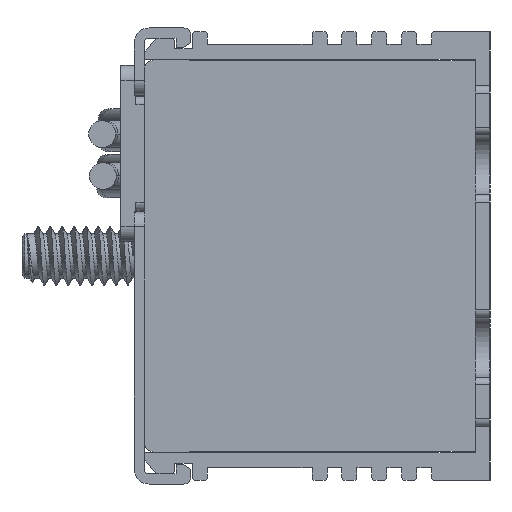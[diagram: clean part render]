
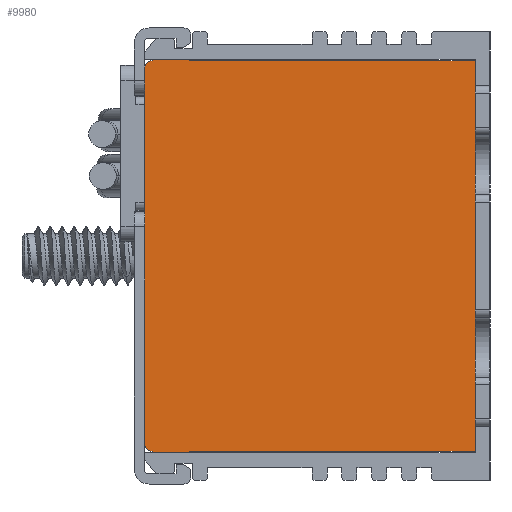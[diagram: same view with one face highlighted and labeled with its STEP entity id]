
A CAD part, left-side view. The second image highlights one B-rep face of the part: STEP entity #9980.
In plain terms, the highlighted planar face has unit normal (-1, 0, 0) as drawn and (0, 0, 1) by its records, which use the part's own axes.
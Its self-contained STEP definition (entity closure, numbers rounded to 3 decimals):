
#9162=CARTESIAN_POINT('',(-13.25,10.05,1.));
#9163=DIRECTION('',(0.,0.,1.));
#9164=DIRECTION('',(0.,1.,0.));
#9165=AXIS2_PLACEMENT_3D('',#9162,#9163,#9164);
#9170=DIRECTION('',(-1.,0.,0.));
#9171=VECTOR('',#9170,0.2);
#9172=CARTESIAN_POINT('',(-13.05,10.55,1.));
#9173=LINE('',#9172,#9171);
#9177=CARTESIAN_POINT('',(-12.55,10.55,1.));
#9178=DIRECTION('',(0.,0.,1.));
#9179=DIRECTION('',(0.,1.,0.));
#9180=AXIS2_PLACEMENT_3D('',#9177,#9178,#9179);
#9185=DIRECTION('',(-1.,0.,0.));
#9186=VECTOR('',#9185,10.75);
#9187=CARTESIAN_POINT('',(-1.8,11.05,1.));
#9188=LINE('',#9187,#9186);
#9192=DIRECTION('',(0.,1.,0.));
#9193=VECTOR('',#9192,0.5);
#9194=CARTESIAN_POINT('',(-1.8,11.05,1.));
#9195=LINE('',#9194,#9193);
#9199=CARTESIAN_POINT('',(-1.6,11.55,1.));
#9200=DIRECTION('',(0.,0.,1.));
#9201=DIRECTION('',(0.,1.,0.));
#9202=AXIS2_PLACEMENT_3D('',#9199,#9200,#9201);
#9207=CARTESIAN_POINT('',(1.6,11.55,1.));
#9208=DIRECTION('',(0.,0.,1.));
#9209=DIRECTION('',(1.,0.,0.));
#9210=AXIS2_PLACEMENT_3D('',#9207,#9208,#9209);
#9215=DIRECTION('',(-1.,0.,0.));
#9216=VECTOR('',#9215,10.75);
#9217=CARTESIAN_POINT('',(12.55,11.05,1.));
#9218=LINE('',#9217,#9216);
#9222=CARTESIAN_POINT('',(12.55,10.55,1.));
#9223=DIRECTION('',(0.,0.,1.));
#9224=DIRECTION('',(1.,0.,0.));
#9225=AXIS2_PLACEMENT_3D('',#9222,#9223,#9224);
#9230=DIRECTION('',(-1.,0.,0.));
#9231=VECTOR('',#9230,0.2);
#9232=CARTESIAN_POINT('',(13.25,10.55,1.));
#9233=LINE('',#9232,#9231);
#9237=CARTESIAN_POINT('',(13.25,10.05,1.));
#9238=DIRECTION('',(0.,0.,1.));
#9239=DIRECTION('',(1.,0.,0.));
#9240=AXIS2_PLACEMENT_3D('',#9237,#9238,#9239);
#9245=DIRECTION('',(0.,1.,0.));
#9246=VECTOR('',#9245,1.5);
#9247=CARTESIAN_POINT('',(13.75,8.55,1.));
#9248=LINE('',#9247,#9246);
#9252=CARTESIAN_POINT('',(13.25,8.55,1.));
#9253=DIRECTION('',(0.,0.,1.));
#9254=DIRECTION('',(0.,-1.,0.));
#9255=AXIS2_PLACEMENT_3D('',#9252,#9253,#9254);
#9260=DIRECTION('',(1.,0.,0.));
#9261=VECTOR('',#9260,0.2);
#9262=CARTESIAN_POINT('',(13.05,8.05,1.));
#9263=LINE('',#9262,#9261);
#9267=DIRECTION('',(0.,1.,0.));
#9268=VECTOR('',#9267,19.1);
#9269=CARTESIAN_POINT('',(13.05,-11.05,1.));
#9270=LINE('',#9269,#9268);
#9274=DIRECTION('',(1.,0.,0.));
#9275=VECTOR('',#9274,3.25);
#9276=CARTESIAN_POINT('',(9.8,-11.05,1.));
#9277=LINE('',#9276,#9275);
#9281=DIRECTION('',(0.,-1.,0.));
#9282=VECTOR('',#9281,1.);
#9283=CARTESIAN_POINT('',(9.8,-11.05,1.));
#9284=LINE('',#9283,#9282);
#9288=DIRECTION('',(1.,0.,0.));
#9289=VECTOR('',#9288,10.4);
#9290=CARTESIAN_POINT('',(-5.2,-11.05,1.));
#9291=LINE('',#9290,#9289);
#9295=DIRECTION('',(0.,-1.,0.));
#9296=VECTOR('',#9295,1.);
#9297=CARTESIAN_POINT('',(-5.2,-11.05,1.));
#9298=LINE('',#9297,#9296);
#9302=DIRECTION('',(1.,0.,0.));
#9303=VECTOR('',#9302,3.25);
#9304=CARTESIAN_POINT('',(-13.05,-11.05,1.));
#9305=LINE('',#9304,#9303);
#9309=DIRECTION('',(0.,-1.,0.));
#9310=VECTOR('',#9309,19.1);
#9311=CARTESIAN_POINT('',(-13.05,8.05,1.));
#9312=LINE('',#9311,#9310);
#9316=DIRECTION('',(1.,0.,0.));
#9317=VECTOR('',#9316,0.2);
#9318=CARTESIAN_POINT('',(-13.25,8.05,1.));
#9319=LINE('',#9318,#9317);
#9323=CARTESIAN_POINT('',(-13.25,8.55,1.));
#9324=DIRECTION('',(0.,0.,1.));
#9325=DIRECTION('',(-1.,0.,0.));
#9326=AXIS2_PLACEMENT_3D('',#9323,#9324,#9325);
#9331=DIRECTION('',(0.,-1.,0.));
#9332=VECTOR('',#9331,1.5);
#9333=CARTESIAN_POINT('',(-13.75,10.05,1.));
#9334=LINE('',#9333,#9332);
#9338=DIRECTION('',(1.,0.,0.));
#9339=VECTOR('',#9338,3.2);
#9340=CARTESIAN_POINT('',(-1.6,11.75,1.));
#9341=LINE('',#9340,#9339);
#9366=DIRECTION('',(0.,1.,0.));
#9367=VECTOR('',#9366,0.5);
#9368=CARTESIAN_POINT('',(1.8,11.05,1.));
#9369=LINE('',#9368,#9367);
#9464=DIRECTION('',(0.,-1.,0.));
#9465=VECTOR('',#9464,1.);
#9466=CARTESIAN_POINT('',(5.2,-11.05,1.));
#9467=LINE('',#9466,#9465);
#9471=DIRECTION('',(-1.,0.,0.));
#9472=VECTOR('',#9471,4.6);
#9473=CARTESIAN_POINT('',(9.8,-12.05,1.));
#9474=LINE('',#9473,#9472);
#9499=DIRECTION('',(-1.,0.,0.));
#9500=VECTOR('',#9499,4.6);
#9501=CARTESIAN_POINT('',(-5.2,-12.05,1.));
#9502=LINE('',#9501,#9500);
#9541=DIRECTION('',(0.,-1.,0.));
#9542=VECTOR('',#9541,1.);
#9543=CARTESIAN_POINT('',(-9.8,-11.05,1.));
#9544=LINE('',#9543,#9542);
#9577=CARTESIAN_POINT('',(-13.05,-11.05,1.));
#9579=VERTEX_POINT('',#9577);
#9581=CARTESIAN_POINT('',(13.05,-11.05,1.));
#9583=VERTEX_POINT('',#9581);
#9584=CARTESIAN_POINT('',(9.8,-12.05,1.));
#9585=CARTESIAN_POINT('',(5.2,-12.05,1.));
#9586=VERTEX_POINT('',#9584);
#9587=VERTEX_POINT('',#9585);
#9592=CARTESIAN_POINT('',(-5.2,-12.05,1.));
#9593=CARTESIAN_POINT('',(-9.8,-12.05,1.));
#9594=VERTEX_POINT('',#9592);
#9595=VERTEX_POINT('',#9593);
#9601=CARTESIAN_POINT('',(5.2,-11.05,1.));
#9603=VERTEX_POINT('',#9601);
#9605=CARTESIAN_POINT('',(9.8,-11.05,1.));
#9607=VERTEX_POINT('',#9605);
#9609=CARTESIAN_POINT('',(-9.8,-11.05,1.));
#9611=VERTEX_POINT('',#9609);
#9613=CARTESIAN_POINT('',(-5.2,-11.05,1.));
#9615=VERTEX_POINT('',#9613);
#9616=CARTESIAN_POINT('',(-12.55,11.05,1.));
#9618=VERTEX_POINT('',#9616);
#9620=CARTESIAN_POINT('',(12.55,11.05,1.));
#9622=VERTEX_POINT('',#9620);
#9625=CARTESIAN_POINT('',(-1.8,11.05,1.));
#9627=VERTEX_POINT('',#9625);
#9629=CARTESIAN_POINT('',(1.8,11.05,1.));
#9631=VERTEX_POINT('',#9629);
#9632=CARTESIAN_POINT('',(-1.6,11.75,1.));
#9633=CARTESIAN_POINT('',(1.6,11.75,1.));
#9634=VERTEX_POINT('',#9632);
#9635=VERTEX_POINT('',#9633);
#9642=CARTESIAN_POINT('',(-1.8,11.55,1.));
#9643=VERTEX_POINT('',#9642);
#9644=CARTESIAN_POINT('',(1.8,11.55,1.));
#9645=VERTEX_POINT('',#9644);
#9649=CARTESIAN_POINT('',(-13.05,10.55,1.));
#9651=VERTEX_POINT('',#9649);
#9653=CARTESIAN_POINT('',(-13.05,8.05,1.));
#9655=VERTEX_POINT('',#9653);
#9660=CARTESIAN_POINT('',(-13.25,10.55,1.));
#9661=VERTEX_POINT('',#9660);
#9662=CARTESIAN_POINT('',(-13.75,10.05,1.));
#9663=VERTEX_POINT('',#9662);
#9668=CARTESIAN_POINT('',(-13.75,8.55,1.));
#9669=VERTEX_POINT('',#9668);
#9670=CARTESIAN_POINT('',(-13.25,8.05,1.));
#9671=VERTEX_POINT('',#9670);
#9673=CARTESIAN_POINT('',(13.05,8.05,1.));
#9675=VERTEX_POINT('',#9673);
#9677=CARTESIAN_POINT('',(13.05,10.55,1.));
#9679=VERTEX_POINT('',#9677);
#9684=CARTESIAN_POINT('',(13.75,10.05,1.));
#9685=VERTEX_POINT('',#9684);
#9686=CARTESIAN_POINT('',(13.25,10.55,1.));
#9687=VERTEX_POINT('',#9686);
#9692=CARTESIAN_POINT('',(13.25,8.05,1.));
#9693=VERTEX_POINT('',#9692);
#9694=CARTESIAN_POINT('',(13.75,8.55,1.));
#9695=VERTEX_POINT('',#9694);
#9920=CARTESIAN_POINT('',(0.,0.,1.));
#9921=DIRECTION('',(0.,0.,1.));
#9922=DIRECTION('',(1.,0.,0.));
#9923=AXIS2_PLACEMENT_3D('',#9920,#9921,#9922);
#9924=PLANE('',#9923);
#9925=ORIENTED_EDGE('',*,*,#9779,.F.);
#9926=ORIENTED_EDGE('',*,*,#9802,.F.);
#9927=ORIENTED_EDGE('',*,*,#9823,.F.);
#9928=ORIENTED_EDGE('',*,*,#9842,.F.);
#9929=ORIENTED_EDGE('',*,*,#9886,.T.);
#9930=ORIENTED_EDGE('',*,*,#9904,.F.);
#9932=ORIENTED_EDGE('',*,*,#9931,.T.);
#9934=ORIENTED_EDGE('',*,*,#9933,.F.);
#9936=ORIENTED_EDGE('',*,*,#9935,.F.);
#9937=ORIENTED_EDGE('',*,*,#9866,.F.);
#9939=ORIENTED_EDGE('',*,*,#9938,.F.);
#9941=ORIENTED_EDGE('',*,*,#9940,.F.);
#9943=ORIENTED_EDGE('',*,*,#9942,.F.);
#9945=ORIENTED_EDGE('',*,*,#9944,.F.);
#9947=ORIENTED_EDGE('',*,*,#9946,.F.);
#9949=ORIENTED_EDGE('',*,*,#9948,.F.);
#9951=ORIENTED_EDGE('',*,*,#9950,.F.);
#9953=ORIENTED_EDGE('',*,*,#9952,.F.);
#9955=ORIENTED_EDGE('',*,*,#9954,.T.);
#9957=ORIENTED_EDGE('',*,*,#9956,.T.);
#9959=ORIENTED_EDGE('',*,*,#9958,.F.);
#9961=ORIENTED_EDGE('',*,*,#9960,.F.);
#9963=ORIENTED_EDGE('',*,*,#9962,.T.);
#9965=ORIENTED_EDGE('',*,*,#9964,.T.);
#9967=ORIENTED_EDGE('',*,*,#9966,.F.);
#9969=ORIENTED_EDGE('',*,*,#9968,.F.);
#9971=ORIENTED_EDGE('',*,*,#9970,.F.);
#9973=ORIENTED_EDGE('',*,*,#9972,.F.);
#9975=ORIENTED_EDGE('',*,*,#9974,.F.);
#9977=ORIENTED_EDGE('',*,*,#9976,.F.);
#9978=EDGE_LOOP('',(#9925,#9926,#9927,#9928,#9929,#9930,#9932,#9934,#9936,#9937,
#9939,#9941,#9943,#9945,#9947,#9949,#9951,#9953,#9955,#9957,#9959,#9961,#9963,
#9965,#9967,#9969,#9971,#9973,#9975,#9977));
#9979=FACE_OUTER_BOUND('',#9978,.F.);
#9980=ADVANCED_FACE('',(#9979),#9924,.T.);
#9166=CIRCLE('',#9165,0.5);
#9181=CIRCLE('',#9180,0.5);
#9203=CIRCLE('',#9202,0.2);
#9211=CIRCLE('',#9210,0.2);
#9226=CIRCLE('',#9225,0.5);
#9241=CIRCLE('',#9240,0.5);
#9256=CIRCLE('',#9255,0.5);
#9327=CIRCLE('',#9326,0.5);
#9779=EDGE_CURVE('',#9661,#9663,#9166,.T.);
#9802=EDGE_CURVE('',#9651,#9661,#9173,.T.);
#9823=EDGE_CURVE('',#9618,#9651,#9181,.T.);
#9842=EDGE_CURVE('',#9627,#9618,#9188,.T.);
#9866=EDGE_CURVE('',#9622,#9631,#9218,.T.);
#9886=EDGE_CURVE('',#9627,#9643,#9195,.T.);
#9904=EDGE_CURVE('',#9634,#9643,#9203,.T.);
#9931=EDGE_CURVE('',#9634,#9635,#9341,.T.);
#9933=EDGE_CURVE('',#9645,#9635,#9211,.T.);
#9935=EDGE_CURVE('',#9631,#9645,#9369,.T.);
#9938=EDGE_CURVE('',#9679,#9622,#9226,.T.);
#9940=EDGE_CURVE('',#9687,#9679,#9233,.T.);
#9942=EDGE_CURVE('',#9685,#9687,#9241,.T.);
#9944=EDGE_CURVE('',#9695,#9685,#9248,.T.);
#9946=EDGE_CURVE('',#9693,#9695,#9256,.T.);
#9948=EDGE_CURVE('',#9675,#9693,#9263,.T.);
#9950=EDGE_CURVE('',#9583,#9675,#9270,.T.);
#9952=EDGE_CURVE('',#9607,#9583,#9277,.T.);
#9954=EDGE_CURVE('',#9607,#9586,#9284,.T.);
#9956=EDGE_CURVE('',#9586,#9587,#9474,.T.);
#9958=EDGE_CURVE('',#9603,#9587,#9467,.T.);
#9960=EDGE_CURVE('',#9615,#9603,#9291,.T.);
#9962=EDGE_CURVE('',#9615,#9594,#9298,.T.);
#9964=EDGE_CURVE('',#9594,#9595,#9502,.T.);
#9966=EDGE_CURVE('',#9611,#9595,#9544,.T.);
#9968=EDGE_CURVE('',#9579,#9611,#9305,.T.);
#9970=EDGE_CURVE('',#9655,#9579,#9312,.T.);
#9972=EDGE_CURVE('',#9671,#9655,#9319,.T.);
#9974=EDGE_CURVE('',#9669,#9671,#9327,.T.);
#9976=EDGE_CURVE('',#9663,#9669,#9334,.T.);
